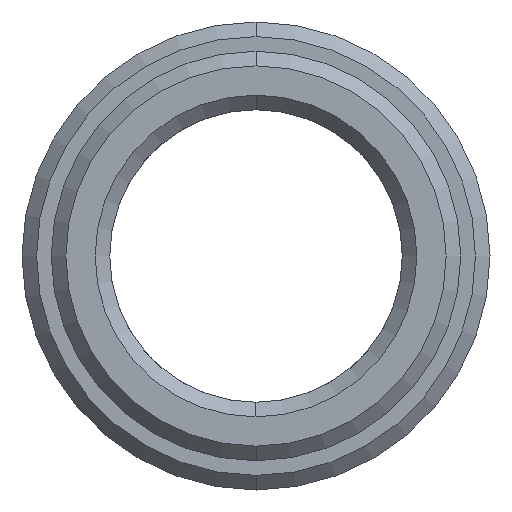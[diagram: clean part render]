
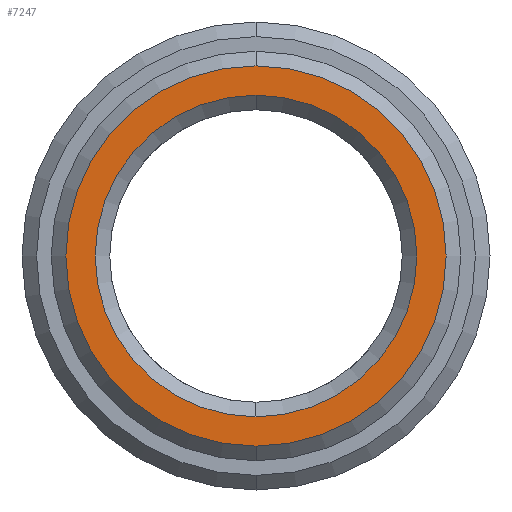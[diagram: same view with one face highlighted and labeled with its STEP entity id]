
A CAD part, left-side view. The second image highlights one B-rep face of the part: STEP entity #7247.
In plain terms, the highlighted planar face has unit normal (-1, 0, 0).
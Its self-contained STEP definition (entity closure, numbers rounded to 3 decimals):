
#4426=CARTESIAN_POINT('',(-5.,0.,0.));
#4427=DIRECTION('',(1.,0.,0.));
#4428=DIRECTION('',(0.,0.,1.));
#4429=AXIS2_PLACEMENT_3D('',#4426,#4427,#4428);
#4431=CARTESIAN_POINT('',(-5.,0.,0.));
#4432=DIRECTION('',(1.,0.,0.));
#4433=DIRECTION('',(0.,0.,-1.));
#4434=AXIS2_PLACEMENT_3D('',#4431,#4432,#4433);
#4436=CARTESIAN_POINT('',(-5.,0.,0.));
#4437=DIRECTION('',(1.,0.,0.));
#4438=DIRECTION('',(0.,0.,1.));
#4439=AXIS2_PLACEMENT_3D('',#4436,#4437,#4438);
#4441=CARTESIAN_POINT('',(-5.,0.,0.));
#4442=DIRECTION('',(1.,0.,0.));
#4443=DIRECTION('',(0.,0.,-1.));
#4444=AXIS2_PLACEMENT_3D('',#4441,#4442,#4443);
#4798=CARTESIAN_POINT('',(-5.,0.,5.5));
#4799=CARTESIAN_POINT('',(-5.,0.,-5.5));
#4800=VERTEX_POINT('',#4798);
#4801=VERTEX_POINT('',#4799);
#4806=CARTESIAN_POINT('',(-5.,0.,6.5));
#4807=CARTESIAN_POINT('',(-5.,0.,-6.5));
#4808=VERTEX_POINT('',#4806);
#4809=VERTEX_POINT('',#4807);
#7232=CARTESIAN_POINT('',(-5.,0.,0.));
#7233=DIRECTION('',(1.,0.,0.));
#7234=DIRECTION('',(0.,0.,1.));
#7235=AXIS2_PLACEMENT_3D('',#7232,#7233,#7234);
#7236=PLANE('',#7235);
#7237=ORIENTED_EDGE('',*,*,#7199,.T.);
#7238=ORIENTED_EDGE('',*,*,#7214,.T.);
#7239=EDGE_LOOP('',(#7237,#7238));
#7240=FACE_OUTER_BOUND('',#7239,.F.);
#7242=ORIENTED_EDGE('',*,*,#7241,.F.);
#7244=ORIENTED_EDGE('',*,*,#7243,.F.);
#7245=EDGE_LOOP('',(#7242,#7244));
#7246=FACE_BOUND('',#7245,.F.);
#7247=ADVANCED_FACE('',(#7240,#7246),#7236,.F.);
#4430=CIRCLE('',#4429,6.5);
#4435=CIRCLE('',#4434,6.5);
#4440=CIRCLE('',#4439,5.5);
#4445=CIRCLE('',#4444,5.5);
#7199=EDGE_CURVE('',#4808,#4809,#4430,.T.);
#7214=EDGE_CURVE('',#4809,#4808,#4435,.T.);
#7241=EDGE_CURVE('',#4800,#4801,#4440,.T.);
#7243=EDGE_CURVE('',#4801,#4800,#4445,.T.);
